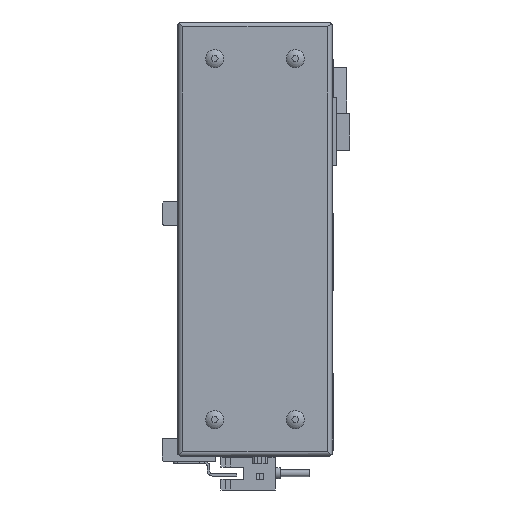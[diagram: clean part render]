
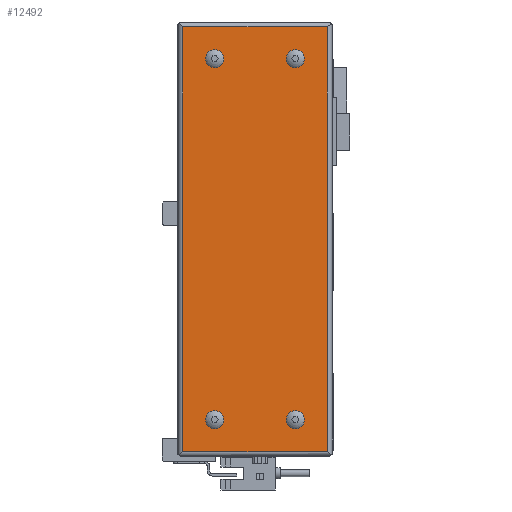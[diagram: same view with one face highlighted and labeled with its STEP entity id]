
A CAD part, left-side view. The second image highlights one B-rep face of the part: STEP entity #12492.
In plain terms, the highlighted planar face has unit normal (-1, 0, 0).
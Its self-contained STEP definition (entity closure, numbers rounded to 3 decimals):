
#343=PLANE('',#13400);
#1077=LINE('',#18975,#2380);
#1078=LINE('',#18978,#2381);
#1079=LINE('',#18980,#2382);
#1080=LINE('',#18982,#2383);
#2380=VECTOR('',#15279,1000.);
#2381=VECTOR('',#15280,1000.);
#2382=VECTOR('',#15281,1000.);
#2383=VECTOR('',#15282,1000.);
#4258=ORIENTED_EDGE('',*,*,#7379,.F.);
#4259=ORIENTED_EDGE('',*,*,#7380,.F.);
#4260=ORIENTED_EDGE('',*,*,#7381,.F.);
#4261=ORIENTED_EDGE('',*,*,#7382,.F.);
#4262=ORIENTED_EDGE('',*,*,#7383,.F.);
#4263=ORIENTED_EDGE('',*,*,#7384,.F.);
#4264=ORIENTED_EDGE('',*,*,#7385,.T.);
#4265=ORIENTED_EDGE('',*,*,#7386,.T.);
#7379=EDGE_CURVE('',#9031,#9031,#10025,.F.);
#7380=EDGE_CURVE('',#9032,#9032,#10026,.F.);
#7381=EDGE_CURVE('',#9033,#9033,#10027,.F.);
#7382=EDGE_CURVE('',#9034,#9034,#10028,.F.);
#7383=EDGE_CURVE('',#9035,#9036,#1077,.T.);
#7384=EDGE_CURVE('',#9037,#9035,#1078,.T.);
#7385=EDGE_CURVE('',#9037,#9038,#1079,.T.);
#7386=EDGE_CURVE('',#9038,#9036,#1080,.T.);
#9031=VERTEX_POINT('',#18968);
#9032=VERTEX_POINT('',#18970);
#9033=VERTEX_POINT('',#18972);
#9034=VERTEX_POINT('',#18974);
#9035=VERTEX_POINT('',#18976);
#9036=VERTEX_POINT('',#18977);
#9037=VERTEX_POINT('',#18979);
#9038=VERTEX_POINT('',#18981);
#10025=CIRCLE('',#13401,3.7);
#10026=CIRCLE('',#13402,3.7);
#10027=CIRCLE('',#13403,3.7);
#10028=CIRCLE('',#13404,3.7);
#10557=EDGE_LOOP('',(#4258));
#10558=EDGE_LOOP('',(#4259));
#10559=EDGE_LOOP('',(#4260));
#10560=EDGE_LOOP('',(#4261));
#10561=EDGE_LOOP('',(#4262,#4263,#4264,#4265));
#11458=FACE_BOUND('',#10557,.T.);
#11459=FACE_BOUND('',#10558,.T.);
#11460=FACE_BOUND('',#10559,.T.);
#11461=FACE_BOUND('',#10560,.T.);
#11462=FACE_BOUND('',#10561,.T.);
#12492=ADVANCED_FACE('',(#11458,#11459,#11460,#11461,#11462),#343,.F.);
#13400=AXIS2_PLACEMENT_3D('',#18966,#15269,#15270);
#13401=AXIS2_PLACEMENT_3D('',#18967,#15271,#15272);
#13402=AXIS2_PLACEMENT_3D('',#18969,#15273,#15274);
#13403=AXIS2_PLACEMENT_3D('',#18971,#15275,#15276);
#13404=AXIS2_PLACEMENT_3D('',#18973,#15277,#15278);
#15269=DIRECTION('',(1.,0.,0.));
#15270=DIRECTION('',(0.,0.,-1.));
#15271=DIRECTION('',(1.,0.,0.));
#15272=DIRECTION('',(0.,0.,-1.));
#15273=DIRECTION('',(1.,0.,0.));
#15274=DIRECTION('',(0.,0.,-1.));
#15275=DIRECTION('',(1.,0.,0.));
#15276=DIRECTION('',(0.,0.,-1.));
#15277=DIRECTION('',(1.,0.,0.));
#15278=DIRECTION('',(0.,0.,-1.));
#15279=DIRECTION('',(0.,0.,-1.));
#15280=DIRECTION('',(0.,-1.,0.));
#15281=DIRECTION('',(0.,0.,-1.));
#15282=DIRECTION('',(0.,-1.,0.));
#18966=CARTESIAN_POINT('',(-52.,0.,0.));
#18967=CARTESIAN_POINT('',(-52.,15.5,111.5));
#18968=CARTESIAN_POINT('',(-52.,15.5,107.8));
#18969=CARTESIAN_POINT('',(-52.,15.5,-36.));
#18970=CARTESIAN_POINT('',(-52.,15.5,-39.7));
#18971=CARTESIAN_POINT('',(-52.,48.5,111.5));
#18972=CARTESIAN_POINT('',(-52.,48.5,107.8));
#18973=CARTESIAN_POINT('',(-52.,48.5,-36.));
#18974=CARTESIAN_POINT('',(-52.,48.5,-39.7));
#18975=CARTESIAN_POINT('',(-52.,2.5,177.5));
#18976=CARTESIAN_POINT('',(-52.,2.5,124.5));
#18977=CARTESIAN_POINT('',(-52.,2.5,-49.));
#18978=CARTESIAN_POINT('',(-52.,177.5,124.5));
#18979=CARTESIAN_POINT('',(-52.,61.5,124.5));
#18980=CARTESIAN_POINT('',(-52.,61.5,177.5));
#18981=CARTESIAN_POINT('',(-52.,61.5,-49.));
#18982=CARTESIAN_POINT('',(-52.,177.5,-49.));
